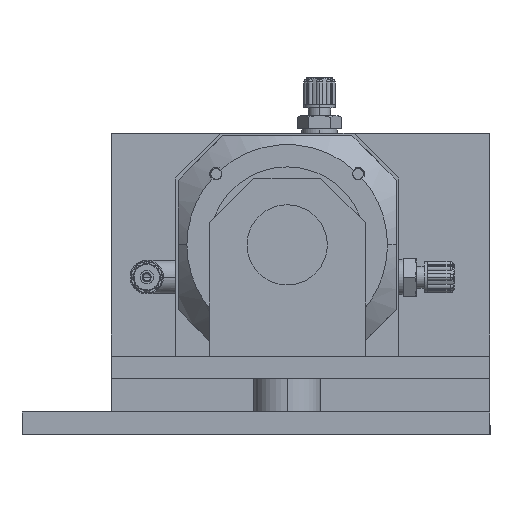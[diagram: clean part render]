
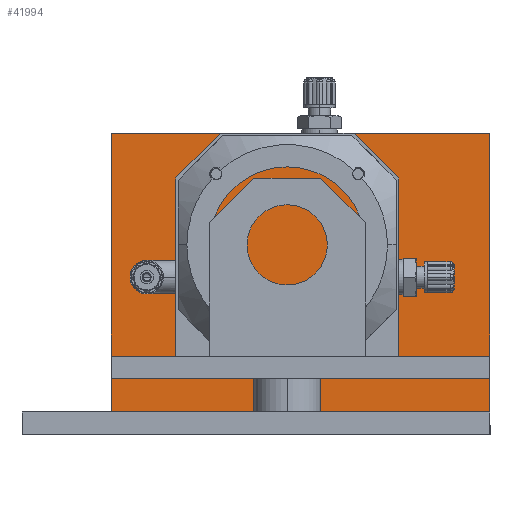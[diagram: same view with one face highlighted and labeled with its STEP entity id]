
A CAD part, left-side view. The second image highlights one B-rep face of the part: STEP entity #41994.
In plain terms, the highlighted planar face has unit normal (-1, 0, 0) as drawn and (0, -1, 0) by its records, which use the part's own axes.
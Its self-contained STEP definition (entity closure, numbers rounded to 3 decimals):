
#4987 = EDGE_CURVE ( 'NONE', #159083, #45326, #45899, .T. ) ;
#5399 = CARTESIAN_POINT ( 'NONE',  ( 0., 0., 0. ) ) ;
#8188 = CARTESIAN_POINT ( 'NONE',  ( 170., 0., 0. ) ) ;
#10116 = EDGE_CURVE ( 'NONE', #157749, #175590, #48243, .T. ) ;
#11387 = ORIENTED_EDGE ( 'NONE', *, *, #122092, .F. ) ;
#13479 = VECTOR ( 'NONE', #104646, 1000. ) ;
#21465 = DIRECTION ( 'NONE',  ( 0., 0., 1. ) ) ;
#22315 = CARTESIAN_POINT ( 'NONE',  ( 170., 0., 0. ) ) ;
#36421 = ORIENTED_EDGE ( 'NONE', *, *, #10116, .F. ) ;
#41994 = ADVANCED_FACE ( 'NONE', ( #144140 ), #156710, .F. ) ;
#45326 = VERTEX_POINT ( 'NONE', #97994 ) ;
#45899 = LINE ( 'NONE', #87972, #163795 ) ;
#46606 = DIRECTION ( 'NONE',  ( 0., 1., 0. ) ) ;
#47630 = DIRECTION ( 'NONE',  ( -1., 0., 0. ) ) ;
#48243 = LINE ( 'NONE', #118084, #13479 ) ;
#58832 = CARTESIAN_POINT ( 'NONE',  ( 0., 0., 0. ) ) ;
#60320 = EDGE_CURVE ( 'NONE', #45326, #157749, #131287, .T. ) ;
#68745 = VECTOR ( 'NONE', #134210, 1000. ) ;
#69606 = ORIENTED_EDGE ( 'NONE', *, *, #4987, .F. ) ;
#87972 = CARTESIAN_POINT ( 'NONE',  ( 0., 0., 0. ) ) ;
#89482 = AXIS2_PLACEMENT_3D ( 'NONE', #5399, #46606, #21465 ) ;
#97994 = CARTESIAN_POINT ( 'NONE',  ( 0., 0., 0. ) ) ;
#104646 = DIRECTION ( 'NONE',  ( 1., 0., 0. ) ) ;
#118084 = CARTESIAN_POINT ( 'NONE',  ( 0., 0., 135. ) ) ;
#121118 = EDGE_LOOP ( 'NONE', ( #127071, #69606, #11387, #36421 ) ) ;
#122092 = EDGE_CURVE ( 'NONE', #175590, #159083, #147638, .T. ) ;
#127071 = ORIENTED_EDGE ( 'NONE', *, *, #60320, .F. ) ;
#129530 = DIRECTION ( 'NONE',  ( 0., 0., 1. ) ) ;
#131287 = LINE ( 'NONE', #58832, #168059 ) ;
#134210 = DIRECTION ( 'NONE',  ( 0., 0., -1. ) ) ;
#144140 = FACE_OUTER_BOUND ( 'NONE', #121118, .T. ) ;
#147638 = LINE ( 'NONE', #22315, #68745 ) ;
#156710 = PLANE ( 'NONE',  #89482 ) ;
#157749 = VERTEX_POINT ( 'NONE', #167231 ) ;
#159083 = VERTEX_POINT ( 'NONE', #8188 ) ;
#163795 = VECTOR ( 'NONE', #47630, 1000. ) ;
#167231 = CARTESIAN_POINT ( 'NONE',  ( 0., 0., 135. ) ) ;
#168059 = VECTOR ( 'NONE', #129530, 1000. ) ;
#168495 = CARTESIAN_POINT ( 'NONE',  ( 170., 0., 135. ) ) ;
#175590 = VERTEX_POINT ( 'NONE', #168495 ) ;
